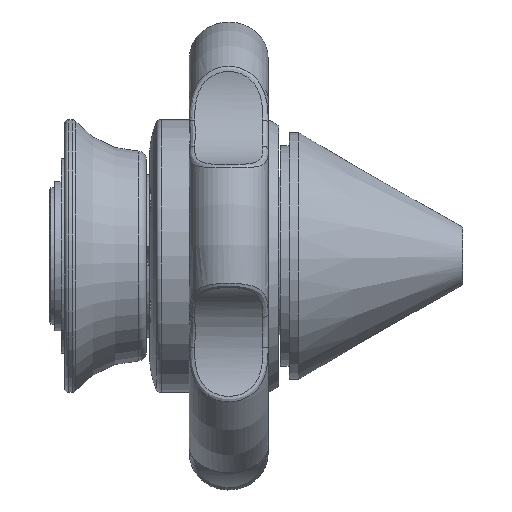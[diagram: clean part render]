
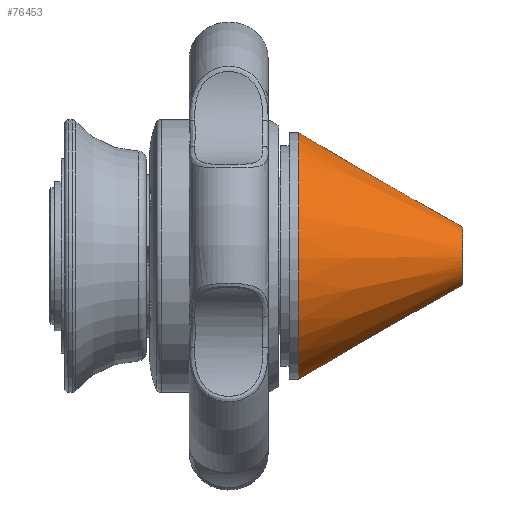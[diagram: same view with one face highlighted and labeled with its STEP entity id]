
A CAD part, top view. The second image highlights one B-rep face of the part: STEP entity #76453.
In plain terms, the highlighted conical face has half-angle 30 degrees and reference radius 5.5 mm.
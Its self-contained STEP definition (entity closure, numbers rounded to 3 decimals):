
#4450 = CARTESIAN_POINT ( 'NONE',  ( 17.158, 0., 0. ) ) ;
#6200 = EDGE_LOOP ( 'NONE', ( #48886 ) ) ;
#8479 = CARTESIAN_POINT ( 'NONE',  ( 48.335, -5.438, 0.824 ) ) ;
#14446 = FACE_BOUND ( 'NONE', #56195, .T. ) ;
#16197 = VERTEX_POINT ( 'NONE', #83828 ) ;
#17925 = DIRECTION ( 'NONE',  ( 1., 0., 0. ) ) ;
#18044 = DIRECTION ( 'NONE',  ( 1., 0., 0. ) ) ;
#19816 = AXIS2_PLACEMENT_3D ( 'NONE', #20788, #55470, #83009 ) ;
#20788 = CARTESIAN_POINT ( 'NONE',  ( 48.335, 0., 0. ) ) ;
#26158 = DIRECTION ( 'NONE',  ( 0., 0.15, 0.989 ) ) ;
#31424 = CARTESIAN_POINT ( 'NONE',  ( 48.335, 0., 0. ) ) ;
#34740 = FACE_OUTER_BOUND ( 'NONE', #6200, .T. ) ;
#35557 = VERTEX_POINT ( 'NONE', #8479 ) ;
#36320 = CIRCLE ( 'NONE', #59320, 23.5 ) ;
#40825 = EDGE_CURVE ( 'NONE', #16197, #16197, #36320, .T. ) ;
#43049 = EDGE_CURVE ( 'NONE', #35557, #35557, #78495, .T. ) ;
#48886 = ORIENTED_EDGE ( 'NONE', *, *, #40825, .T. ) ;
#51239 = ORIENTED_EDGE ( 'NONE', *, *, #43049, .F. ) ;
#55470 = DIRECTION ( 'NONE',  ( -1., 0., 0. ) ) ;
#56195 = EDGE_LOOP ( 'NONE', ( #51239 ) ) ;
#58922 = DIRECTION ( 'NONE',  ( 0., -0.989, 0.15 ) ) ;
#59320 = AXIS2_PLACEMENT_3D ( 'NONE', #4450, #18044, #26158 ) ;
#66890 = AXIS2_PLACEMENT_3D ( 'NONE', #31424, #17925, #58922 ) ;
#76453 = ADVANCED_FACE ( 'NONE', ( #34740, #14446 ), #83242, .T. ) ;
#78495 = CIRCLE ( 'NONE', #66890, 5.5 ) ;
#83009 = DIRECTION ( 'NONE',  ( 0., -0.989, 0.15 ) ) ;
#83242 = CONICAL_SURFACE ( 'NONE', #19816, 5.5, 0.524 ) ;
#83828 = CARTESIAN_POINT ( 'NONE',  ( 17.158, 3.522, 23.235 ) ) ;
